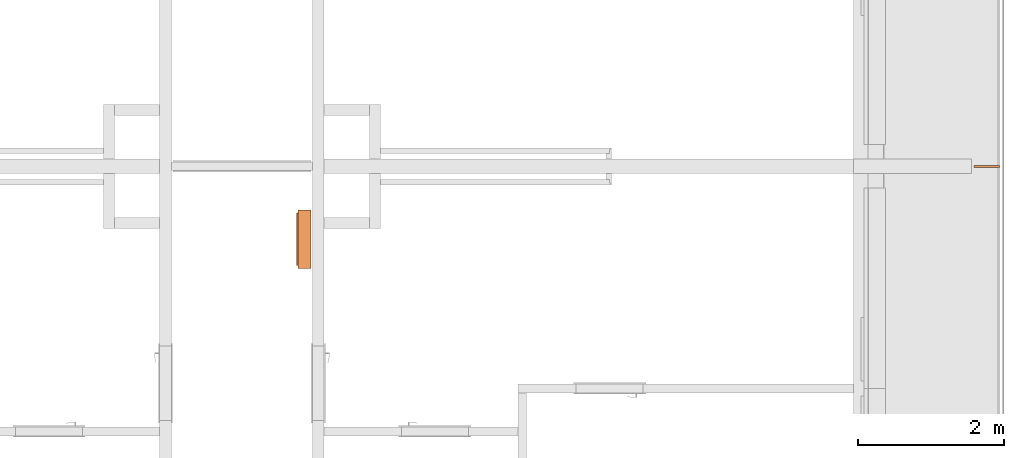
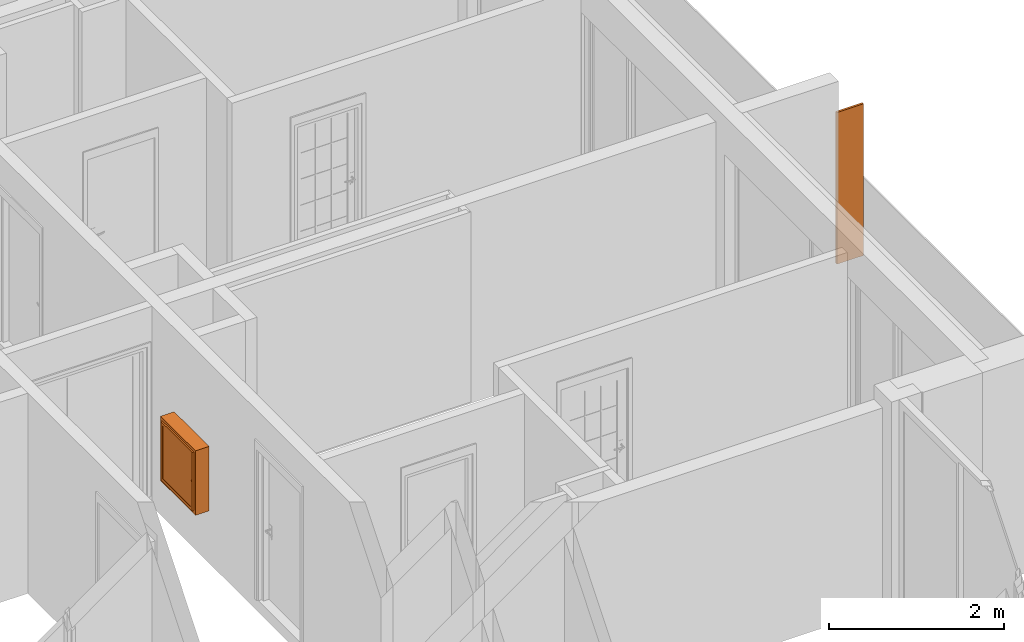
# One storey, part 29 of 66: 2 proxies.
"""IFC2X3 building model written with IfcOpenShell, lengths in millimetres."""

from ifc_helpers import new_model, entity, si_unit, converted_unit, derived_unit, money_unit, direction, frame, origin_with_axes, place, context, subcontext, project, spatial, polyline, outline, extrude, faceted_brep, source, transform, mapped, material, type_object, element, save


model = new_model("IFC2X3")

# Units and contexts
model_context = context("Model", 3, precision=0.01, world=origin_with_axes(), true_north=direction((0.34421633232, 0.938890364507)))
body_context = subcontext(model_context, "Body", "Model", "MODEL_VIEW")
ifc_project = project(units=[si_unit("LENGTHUNIT", "METRE", prefix="MILLI"), si_unit("AREAUNIT", "SQUARE_METRE"), si_unit("VOLUMEUNIT", "CUBIC_METRE"), converted_unit("PLANEANGLEUNIT", "DEGREE", entity("IfcPlaneAngleMeasure", 0.0174532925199), si_unit("PLANEANGLEUNIT", "RADIAN"), dimensions=[0, 0, 0, 0, 0, 0, 0]), si_unit("SOLIDANGLEUNIT", "STERADIAN"), money_unit("USD"), converted_unit("TIMEUNIT", "Year", entity("IfcTimeMeasure", 31556926.0), si_unit("TIMEUNIT", "SECOND"), dimensions=[0, 0, 1, 0, 0, 0, 0]), si_unit("MASSUNIT", "GRAM", prefix="KILO"), si_unit("THERMODYNAMICTEMPERATUREUNIT", "DEGREE_CELSIUS"), si_unit("LUMINOUSINTENSITYUNIT", "LUMEN"), si_unit("ENERGYUNIT", "JOULE", prefix="MEGA"), derived_unit("THERMALCONDUCTANCEUNIT", [(si_unit("POWERUNIT", "WATT"), 1), (si_unit("LENGTHUNIT", "METRE"), -1), (si_unit("THERMODYNAMICTEMPERATUREUNIT", "KELVIN"), -1)]), derived_unit("SPECIFICHEATCAPACITYUNIT", [(si_unit("ENERGYUNIT", "JOULE"), 1), (si_unit("MASSUNIT", "GRAM", prefix="KILO"), -1), (si_unit("THERMODYNAMICTEMPERATUREUNIT", "KELVIN"), -1)]), derived_unit("MASSDENSITYUNIT", [(si_unit("MASSUNIT", "GRAM", prefix="KILO"), 1), (si_unit("VOLUMEUNIT", "CUBIC_METRE"), -1)])], contexts=[model_context])

# Site, building, storey
site_placement = place(None, origin_with_axes())
site = spatial("IfcSite", under=ifc_project, at=site_placement, Name="USTRONIE MORSKIE", CompositionType="ELEMENT")
building_placement = place(site_placement, origin_with_axes())
building = spatial("IfcBuilding", under=site, at=building_placement, Name="Budynek", CompositionType="ELEMENT")
storey_placement = place(building_placement, frame((0.0, 0.0, 10000.0), z_axis=(0.0, 0.0, 1.0), x_axis=(1.0, 0.0, 0.0)))
storey = spatial("IfcBuildingStorey", under=building, at=storey_placement, Name="PIĘTRO 3", CompositionType="ELEMENT", Elevation=10000.0)

# Proxies
ifc_material = material(Name="Woda")
building_element_proxy_type_1 = type_object("IfcBuildingElementProxyType", Name="Woda 30", PredefinedType="NOTDEFINED")
proxy_1_placement = place(storey_placement, frame((427117.920919, 721001.190116, 20.0), z_axis=(0.0, 0.0, 1.0), x_axis=(0.999999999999, -1.66323876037e-06, 0.0)))
element("IfcBuildingElementProxy", 1, at=proxy_1_placement, inside=storey, type_object=building_element_proxy_type_1, material=ifc_material, Name="Œciana-007", context=body_context, shape_type="SweptSolid", body=[
    extrude(outline(polyline([(0.0, -15.0), (350.000000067, -15.0), (350.000000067, 15.0000000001), (0.0, 15.0000000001), (0.0, -15.0)])), origin_with_axes(), (0.0, 0.0, 1.0), 2120.0),
])
building_element_proxy_type_2 = type_object("IfcBuildingElementProxyType", Name="Skrzynka P-Poż 23", PredefinedType="NOTDEFINED")
shared_shape = source(origin_with_axes(), body_context, "Body", "Brep", [
    faceted_brep([(0.0, 40.0, 0.0), (800.0, 40.0, 0.0), (800.0, 20.0, 0.0), (0.0, 20.0, 0.0), (0.0, 40.0, 900.0), (800.0, 40.0, 900.0), (60.0, 40.0, 60.0), (740.0, 40.0, 60.0), (740.0, 40.0, 840.0), (60.0, 40.0, 840.0), (800.0, 20.0, 900.0), (0.0, 20.0, 900.0), (60.0, 20.0, 60.0), (60.0, 20.0, 840.0), (740.0, 20.0, 840.0), (740.0, 20.0, 60.0)], [[[0, 1, 2, 3]], [[0, 4, 5, 1], [6, 7, 8, 9]], [[1, 5, 10, 2]], [[3, 2, 10, 11], [12, 13, 14, 15]], [[4, 0, 3, 11]], [[5, 4, 11, 10]], [[7, 6, 12, 15]], [[8, 7, 15, 14]], [[9, 8, 14, 13]], [[6, 9, 13, 12]]]),
    faceted_brep([(40.0, 20.0, 40.0), (760.0, 20.0, 40.0), (760.0, 0.0, 40.0), (40.0, 0.0, 40.0), (40.0, 20.0, 860.0), (760.0, 20.0, 860.0), (80.0, 20.0, 80.0), (720.0, 20.0, 80.0), (720.0, 20.0, 820.0), (80.0, 20.0, 820.0), (760.0, 0.0, 860.0), (40.0, 0.0, 860.0), (80.0, 0.0, 80.0), (80.0, 0.0, 820.0), (720.0, 0.0, 820.0), (720.0, 0.0, 80.0)], [[[0, 1, 2, 3]], [[0, 4, 5, 1], [6, 7, 8, 9]], [[1, 5, 10, 2]], [[3, 2, 10, 11], [12, 13, 14, 15]], [[4, 0, 3, 11]], [[5, 4, 11, 10]], [[7, 6, 12, 15]], [[8, 7, 15, 14]], [[9, 8, 14, 13]], [[6, 9, 13, 12]]]),
    faceted_brep([(0.0, 180.0, 0.0), (800.0, 180.0, 0.0), (800.0, 40.0, 0.0), (0.0, 40.0, 0.0), (0.0, 180.0, 900.0), (800.0, 180.0, 900.0), (20.0, 180.0, 20.0), (780.0, 180.0, 20.0), (780.0, 180.0, 880.0), (20.0, 180.0, 880.0), (800.0, 40.0, 900.0), (0.0, 40.0, 900.0), (20.0, 40.0, 20.0), (20.0, 40.0, 880.0), (780.0, 40.0, 880.0), (780.0, 40.0, 20.0)], [[[0, 1, 2, 3]], [[0, 4, 5, 1], [6, 7, 8, 9]], [[1, 5, 10, 2]], [[3, 2, 10, 11], [12, 13, 14, 15]], [[4, 0, 3, 11]], [[5, 4, 11, 10]], [[7, 6, 12, 15]], [[8, 7, 15, 14]], [[9, 8, 14, 13]], [[6, 9, 13, 12]]]),
    faceted_brep([(0.0, 200.0, 0.0), (800.0, 200.0, 0.0), (800.0, 180.0, 0.0), (0.0, 180.0, 0.0), (0.0, 200.0, 900.0), (800.0, 200.0, 900.0), (800.0, 180.0, 900.0), (0.0, 180.0, 900.0)], [[[0, 1, 2, 3]], [[0, 4, 5, 1]], [[1, 5, 6, 2]], [[3, 2, 6, 7]], [[4, 0, 3, 7]], [[5, 4, 7, 6]]]),
    faceted_brep([(80.0, 15.0, 80.0), (720.0, 15.0, 80.0), (720.0, 5.0, 80.0), (80.0, 5.0, 80.0), (80.0, 15.0, 820.0), (720.0, 15.0, 820.0), (720.0, 5.0, 820.0), (80.0, 5.0, 820.0)], [[[0, 1, 2, 3]], [[0, 4, 5, 1]], [[1, 5, 6, 2]], [[3, 2, 6, 7]], [[4, 0, 3, 7]], [[5, 4, 7, 6]]]),
    faceted_brep([(749.659258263, 0.0, 447.411809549), (748.660254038, 0.0, 445.0), (747.071067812, 0.0, 442.928932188), (745.0, 0.0, 441.339745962), (742.588190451, 0.0, 440.340741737), (740.0, 0.0, 440.0), (737.411809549, 0.0, 440.340741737), (735.0, 0.0, 441.339745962), (732.928932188, 0.0, 442.928932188), (731.339745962, 0.0, 445.0), (730.340741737, 0.0, 447.411809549), (730.0, 0.0, 450.0), (730.340741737, 0.0, 452.588190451), (731.339745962, 0.0, 455.0), (732.928932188, 0.0, 457.071067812), (735.0, 0.0, 458.660254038), (737.411809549, 0.0, 459.659258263), (740.0, 0.0, 460.0), (742.588190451, 0.0, 459.659258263), (745.0, 0.0, 458.660254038), (747.071067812, 0.0, 457.071067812), (748.660254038, 0.0, 455.0), (749.659258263, 0.0, 452.588190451), (750.0, 0.0, 450.0), (749.659258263, -2.0, 447.411809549), (748.660254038, -2.0, 445.0), (747.071067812, -2.0, 442.928932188), (745.0, -2.0, 441.339745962), (742.588190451, -2.0, 440.340741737), (740.0, -2.0, 440.0), (737.411809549, -2.0, 440.340741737), (735.0, -2.0, 441.339745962), (732.928932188, -2.0, 442.928932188), (731.339745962, -2.0, 445.0), (730.340741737, -2.0, 447.411809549), (730.0, -2.0, 450.0), (730.340741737, -2.0, 452.588190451), (731.339745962, -2.0, 455.0), (732.928932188, -2.0, 457.071067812), (735.0, -2.0, 458.660254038), (737.411809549, -2.0, 459.659258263), (740.0, -2.0, 460.0), (742.588190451, -2.0, 459.659258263), (745.0, -2.0, 458.660254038), (747.071067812, -2.0, 457.071067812), (748.660254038, -2.0, 455.0), (749.659258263, -2.0, 452.588190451), (750.0, -2.0, 450.0)], [[[0, 1, 2, 3, 4, 5, 6, 7, 8, 9, 10, 11, 12, 13, 14, 15, 16, 17, 18, 19, 20, 21, 22, 23]], [[1, 0, 24, 25]], [[2, 1, 25, 26]], [[3, 2, 26, 27]], [[4, 3, 27, 28]], [[5, 4, 28, 29]], [[6, 5, 29, 30]], [[7, 6, 30, 31]], [[8, 7, 31, 32]], [[9, 8, 32, 33]], [[10, 9, 33, 34]], [[11, 10, 34, 35]], [[12, 11, 35, 36]], [[13, 12, 36, 37]], [[14, 13, 37, 38]], [[15, 14, 38, 39]], [[16, 15, 39, 40]], [[17, 16, 40, 41]], [[18, 17, 41, 42]], [[19, 18, 42, 43]], [[20, 19, 43, 44]], [[21, 20, 44, 45]], [[22, 21, 45, 46]], [[23, 22, 46, 47]], [[0, 23, 47, 24]], [[24, 47, 46, 45, 44, 43, 42, 41, 40, 39, 38, 37, 36, 35, 34, 33, 32, 31, 30, 29, 28, 27, 26, 25]]]),
    faceted_brep([(39.8977774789, 16.2235428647, 80.0), (39.5980762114, 15.5, 80.0), (39.1213203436, 14.8786796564, 80.0), (38.5, 14.4019237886, 80.0), (37.7764571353, 14.1022225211, 80.0), (37.0, 14.0, 80.0), (36.2235428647, 14.1022225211, 80.0), (35.5, 14.4019237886, 80.0), (34.8786796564, 14.8786796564, 80.0), (34.4019237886, 15.5, 80.0), (34.1022225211, 16.2235428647, 80.0), (34.0, 17.0, 80.0), (34.1022225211, 17.7764571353, 80.0), (34.4019237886, 18.5, 80.0), (34.8786796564, 19.1213203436, 80.0), (35.5, 19.5980762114, 80.0), (36.2235428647, 19.8977774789, 80.0), (37.0, 20.0, 80.0), (37.7764571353, 19.8977774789, 80.0), (38.5, 19.5980762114, 80.0), (39.1213203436, 19.1213203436, 80.0), (39.5980762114, 18.5, 80.0), (39.8977774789, 17.7764571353, 80.0), (40.0, 17.0, 80.0), (39.8977774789, 16.2235428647, 120.0), (39.5980762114, 15.5, 120.0), (39.1213203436, 14.8786796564, 120.0), (38.5, 14.4019237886, 120.0), (37.7764571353, 14.1022225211, 120.0), (37.0, 14.0, 120.0), (36.2235428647, 14.1022225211, 120.0), (35.5, 14.4019237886, 120.0), (34.8786796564, 14.8786796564, 120.0), (34.4019237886, 15.5, 120.0), (34.1022225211, 16.2235428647, 120.0), (34.0, 17.0, 120.0), (34.1022225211, 17.7764571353, 120.0), (34.4019237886, 18.5, 120.0), (34.8786796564, 19.1213203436, 120.0), (35.5, 19.5980762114, 120.0), (36.2235428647, 19.8977774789, 120.0), (37.0, 20.0, 120.0), (37.7764571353, 19.8977774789, 120.0), (38.5, 19.5980762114, 120.0), (39.1213203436, 19.1213203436, 120.0), (39.5980762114, 18.5, 120.0), (39.8977774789, 17.7764571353, 120.0), (40.0, 17.0, 120.0)], [[[0, 1, 2, 3, 4, 5, 6, 7, 8, 9, 10, 11, 12, 13, 14, 15, 16, 17, 18, 19, 20, 21, 22, 23]], [[1, 0, 24, 25]], [[2, 1, 25, 26]], [[3, 2, 26, 27]], [[4, 3, 27, 28]], [[5, 4, 28, 29]], [[6, 5, 29, 30]], [[7, 6, 30, 31]], [[8, 7, 31, 32]], [[9, 8, 32, 33]], [[10, 9, 33, 34]], [[11, 10, 34, 35]], [[12, 11, 35, 36]], [[13, 12, 36, 37]], [[14, 13, 37, 38]], [[15, 14, 38, 39]], [[16, 15, 39, 40]], [[17, 16, 40, 41]], [[18, 17, 41, 42]], [[19, 18, 42, 43]], [[20, 19, 43, 44]], [[21, 20, 44, 45]], [[22, 21, 45, 46]], [[23, 22, 46, 47]], [[0, 23, 47, 24]], [[24, 47, 46, 45, 44, 43, 42, 41, 40, 39, 38, 37, 36, 35, 34, 33, 32, 31, 30, 29, 28, 27, 26, 25]]]),
    faceted_brep([(39.8977774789, 16.2235428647, 780.0), (39.5980762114, 15.5, 780.0), (39.1213203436, 14.8786796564, 780.0), (38.5, 14.4019237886, 780.0), (37.7764571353, 14.1022225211, 780.0), (37.0, 14.0, 780.0), (36.2235428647, 14.1022225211, 780.0), (35.5, 14.4019237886, 780.0), (34.8786796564, 14.8786796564, 780.0), (34.4019237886, 15.5, 780.0), (34.1022225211, 16.2235428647, 780.0), (34.0, 17.0, 780.0), (34.1022225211, 17.7764571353, 780.0), (34.4019237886, 18.5, 780.0), (34.8786796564, 19.1213203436, 780.0), (35.5, 19.5980762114, 780.0), (36.2235428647, 19.8977774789, 780.0), (37.0, 20.0, 780.0), (37.7764571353, 19.8977774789, 780.0), (38.5, 19.5980762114, 780.0), (39.1213203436, 19.1213203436, 780.0), (39.5980762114, 18.5, 780.0), (39.8977774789, 17.7764571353, 780.0), (40.0, 17.0, 780.0), (39.8977774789, 16.2235428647, 820.0), (39.5980762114, 15.5, 820.0), (39.1213203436, 14.8786796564, 820.0), (38.5, 14.4019237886, 820.0), (37.7764571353, 14.1022225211, 820.0), (37.0, 14.0, 820.0), (36.2235428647, 14.1022225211, 820.0), (35.5, 14.4019237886, 820.0), (34.8786796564, 14.8786796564, 820.0), (34.4019237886, 15.5, 820.0), (34.1022225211, 16.2235428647, 820.0), (34.0, 17.0, 820.0), (34.1022225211, 17.7764571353, 820.0), (34.4019237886, 18.5, 820.0), (34.8786796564, 19.1213203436, 820.0), (35.5, 19.5980762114, 820.0), (36.2235428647, 19.8977774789, 820.0), (37.0, 20.0, 820.0), (37.7764571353, 19.8977774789, 820.0), (38.5, 19.5980762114, 820.0), (39.1213203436, 19.1213203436, 820.0), (39.5980762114, 18.5, 820.0), (39.8977774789, 17.7764571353, 820.0), (40.0, 17.0, 820.0)], [[[0, 1, 2, 3, 4, 5, 6, 7, 8, 9, 10, 11, 12, 13, 14, 15, 16, 17, 18, 19, 20, 21, 22, 23]], [[1, 0, 24, 25]], [[2, 1, 25, 26]], [[3, 2, 26, 27]], [[4, 3, 27, 28]], [[5, 4, 28, 29]], [[6, 5, 29, 30]], [[7, 6, 30, 31]], [[8, 7, 31, 32]], [[9, 8, 32, 33]], [[10, 9, 33, 34]], [[11, 10, 34, 35]], [[12, 11, 35, 36]], [[13, 12, 36, 37]], [[14, 13, 37, 38]], [[15, 14, 38, 39]], [[16, 15, 39, 40]], [[17, 16, 40, 41]], [[18, 17, 41, 42]], [[19, 18, 42, 43]], [[20, 19, 43, 44]], [[21, 20, 44, 45]], [[22, 21, 45, 46]], [[23, 22, 46, 47]], [[0, 23, 47, 24]], [[24, 47, 46, 45, 44, 43, 42, 41, 40, 39, 38, 37, 36, 35, 34, 33, 32, 31, 30, 29, 28, 27, 26, 25]]]),
])
proxy_2_placement = place(storey_placement, frame((417817.920919, 720401.173416, 600.0), z_axis=(0.0, 0.0, 1.0), x_axis=(0.0, -1.0, 0.0)))
element("IfcBuildingElementProxy", 2, at=proxy_2_placement, inside=storey, type_object=building_element_proxy_type_2, Name="OB3", context=body_context, shape_type="MappedRepresentation", body=[
    mapped(shared_shape, transform((0.0, 0.0, 0.0))),
])

save(model, "model.ifc")
